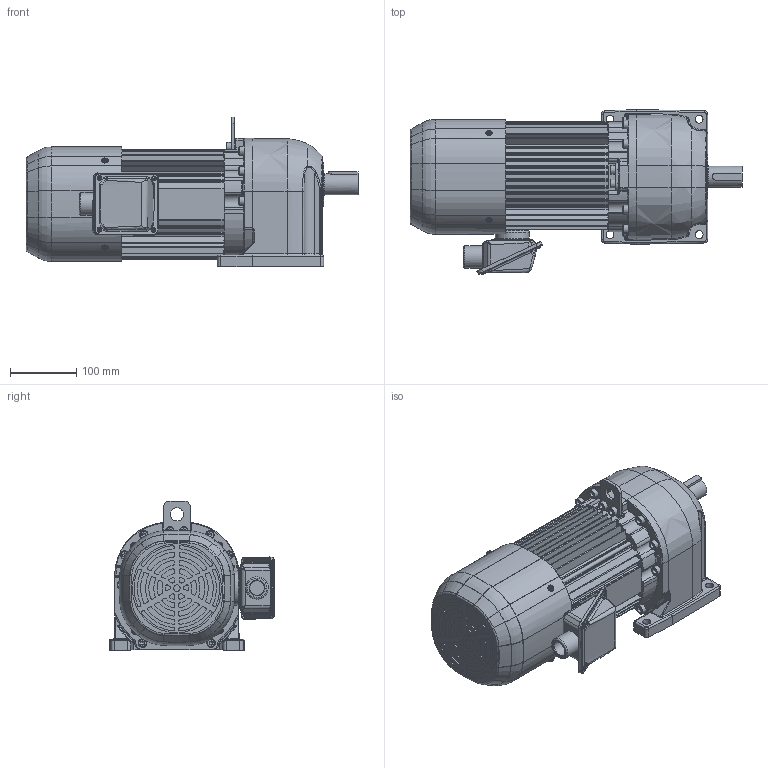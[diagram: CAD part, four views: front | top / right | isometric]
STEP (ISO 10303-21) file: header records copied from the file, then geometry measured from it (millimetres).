
FILE_DESCRIPTION( ( 'Unknown' ), '1' );
FILE_NAME( 'W:/gm/3D-WEB/GV-S/完成品/モータ+減速機/パーツデータ/完成品(GV-S_2.2kw_ブレーキ付_G).stp', 'Unknown', ( 'Unknown' ), ( 'Unknown' ), 'PSStep 11.0', 'Unknown', ' ' );
FILE_SCHEMA( ( 'AUTOMOTIVE_DESIGN { 1 0 10303 214 1 1 1 1 }' ) );
Length unit declared in the file: millimetre
Products named in the file (7): P164377_G¹°½(G32)
Bounding box: 503 x 249.82 x 227 mm (x, y, z)
Volume: 7893357.6 mm3; surface area: 863373.7 mm2
Topology: 7 solids, 42 shells, 2092 faces, 5233 edges, 3312 vertices
Faces by surface type: cylinder 866, plane 779, torus 181, bspline 176, cone 78, sphere 12
Full cylindrical faces by diameter (mm): 3.8 x8, 4 x2, 4.2 x8, 4.5 x4, 4.917 x4, 5.5 x4, 5.8 x4, 6 x12, 6.8 x11, 7 x10, 8 x16, 8.2 x1, 8.5 x2, 9 x8, 10 x16, 12 x4, 13 x10, 20 x1, 22 x1, 23 x1, 24.117 x2, 25 x2, 32 x1, 34 x2, 34.5 x1, 35 x3, 42 x2, 46 x1, 47 x2, 48 x2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
Entity records: 95478 total; most frequent: CARTESIAN_POINT 29895, DIRECTION 10676, ORIENTED_EDGE 9672, EDGE_CURVE 4836, AXIS2_PLACEMENT_3D 4253, VERTEX_POINT 3199, EDGE_LOOP 2478, CIRCLE 2282
